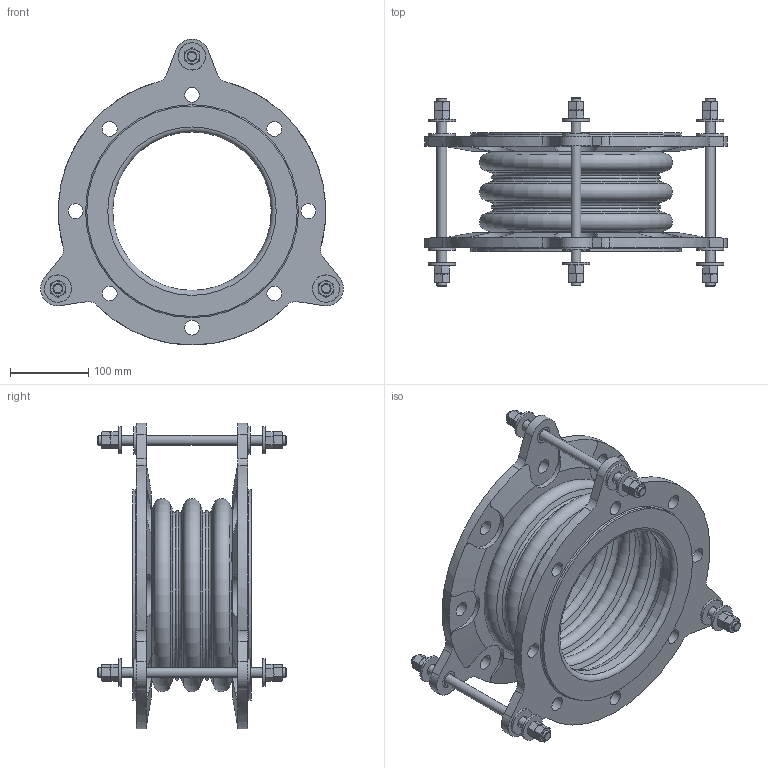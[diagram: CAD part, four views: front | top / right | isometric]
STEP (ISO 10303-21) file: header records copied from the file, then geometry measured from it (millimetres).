
FILE_DESCRIPTION(/* description */ (''),/* implementation_level */ '2;1');
FILE_NAME(/* name */ 'C:\Users\rramoutar\Desktop\803\803 8IDx6FF.stp',/* time_stamp */ '2016-04-24T17:33:31-04:00',/* author */ ('rramoutar'),/* organization */ ('Mason Industries Inc.'),/* preprocessor_version */ 'ST-DEVELOPER v15.6',/* originating_system */ 'Autodesk Inventor 2015',/* authorisation */ '');
FILE_SCHEMA (('CONFIG_CONTROL_DESIGN'));
Length unit declared in the file: inch
Products named in the file (1): 803 8IDx6FF
Bounding box: 388.15 x 241.3 x 392.11 mm (x, y, z)
Volume: 2754553.5 mm3; surface area: 711693.4 mm2
Topology: 6 solids, 12 shells, 563 faces, 1301 edges, 794 vertices
Faces by surface type: cone 202, plane 188, cylinder 147, torus 26
Full cylindrical faces by diameter (mm): 12.7 x15, 14.287 x6, 16.272 x6, 19.05 x16, 21.828 x6, 22.225 x6, 34.925 x12, 203.2 x2, 209.55 x2, 211.137 x2, 269.875 x2
Entity records: 15656 total; most frequent: CARTESIAN_POINT 3766, DIRECTION 2370, ORIENTED_EDGE 2256, EDGE_CURVE 1128, AXIS2_PLACEMENT_3D 1062, EDGE_LOOP 798, VERTEX_POINT 762, FACE_OUTER_BOUND 563
